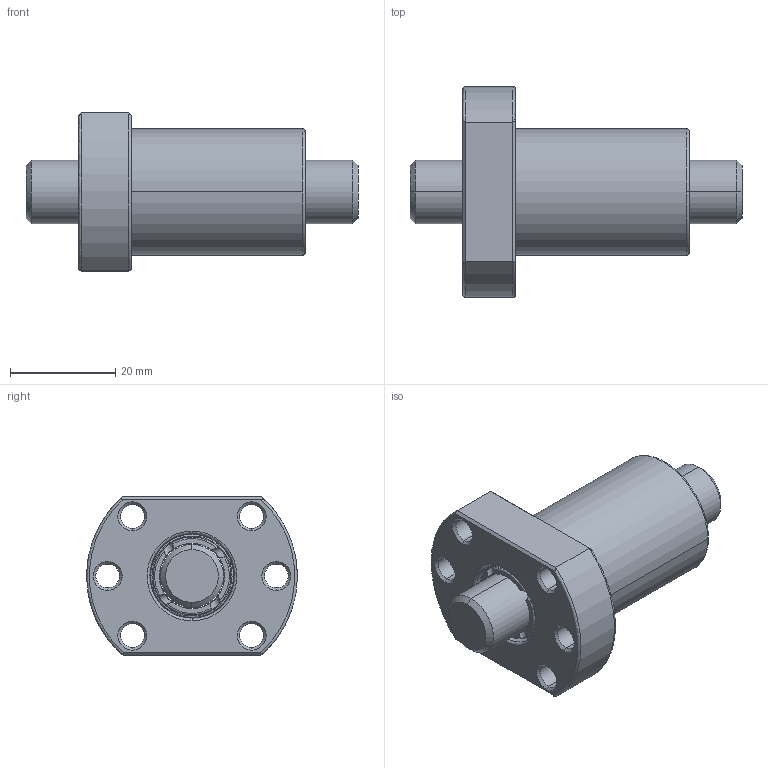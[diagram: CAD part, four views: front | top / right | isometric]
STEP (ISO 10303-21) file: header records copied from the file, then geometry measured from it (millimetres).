
FILE_DESCRIPTION (( 'STEP AP203' ), '1' );
FILE_NAME ('SFUR01204T4D-C.STEP', '2020-06-16T07:21:52', ( '' ), ( '' ), 'SwSTEP 2.0', 'SolidWorks 2013', '' );
FILE_SCHEMA (( 'CONFIG_CONTROL_DESIGN' ));
Length unit declared in the file: millimetre
Products named in the file (1): SFUR01204T4D-C
Bounding box: 63 x 40 x 30 mm (x, y, z)
Volume: 25838.2 mm3; surface area: 11412.5 mm2
Topology: 2 solids, 2 shells, 143 faces, 353 edges, 213 vertices
Faces by surface type: cylinder 52, bspline 36, cone 28, plane 27
Entity records: 6716 total; most frequent: CARTESIAN_POINT 3493, ORIENTED_EDGE 698, DIRECTION 611, EDGE_CURVE 349, AXIS2_PLACEMENT_3D 253, VERTEX_POINT 213, EDGE_LOOP 164, CIRCLE 145
